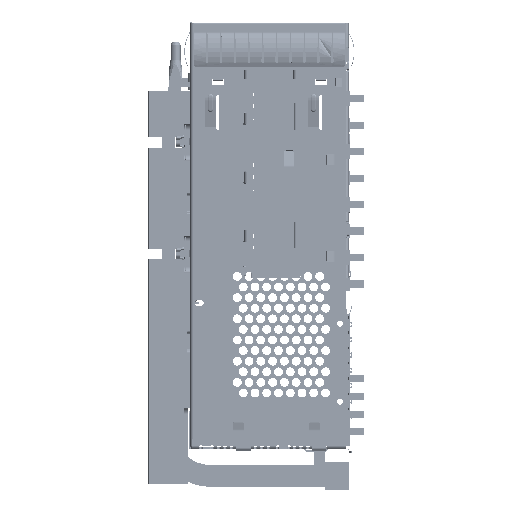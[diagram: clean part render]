
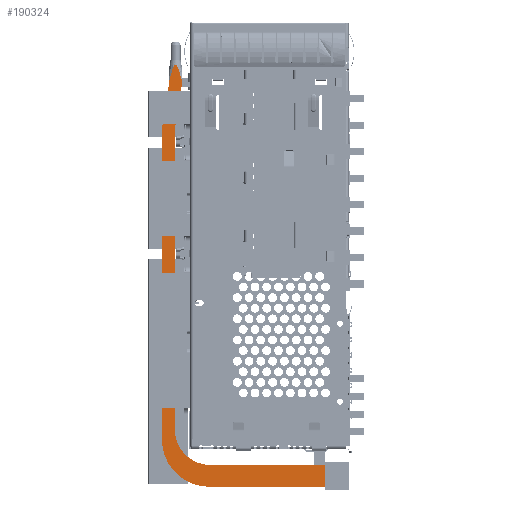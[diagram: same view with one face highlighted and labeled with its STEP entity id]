
A CAD part, left-side view. The second image highlights one B-rep face of the part: STEP entity #190324.
In plain terms, the highlighted planar face has unit normal (-1, 0, 0).
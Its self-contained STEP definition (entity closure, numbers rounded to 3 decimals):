
#51580=DIRECTION('',(0.,1.,0.));
#51581=VECTOR('',#51580,19.8);
#51582=CARTESIAN_POINT('',(-22.55,7.15,-78.962));
#51583=LINE('',#51582,#51581);
#51588=DIRECTION('',(0.,0.,1.));
#51589=VECTOR('',#51588,3.7);
#51590=CARTESIAN_POINT('',(-22.55,7.15,-78.962));
#51591=LINE('',#51590,#51589);
#51592=CARTESIAN_POINT('',(-22.55,26.95,-70.962));
#51593=DIRECTION('',(-1.,0.,0.));
#51594=DIRECTION('',(0.,1.,0.));
#51595=AXIS2_PLACEMENT_3D('',#51592,#51593,#51594);
#51597=DIRECTION('',(0.,0.,-1.));
#51598=VECTOR('',#51597,51.732);
#51599=CARTESIAN_POINT('',(-22.55,34.95,-19.23));
#51600=LINE('',#51599,#51598);
#51601=CARTESIAN_POINT('',(-22.55,16.75,-19.23));
#51602=DIRECTION('',(-1.,0.,0.));
#51603=DIRECTION('',(0.,0.985,0.174));
#51604=AXIS2_PLACEMENT_3D('',#51601,#51602,#51603);
#51606=DIRECTION('',(0.,0.174,-0.985));
#51607=VECTOR('',#51606,3.918);
#51608=CARTESIAN_POINT('',(-22.55,33.993,
-12.21));
#51609=LINE('',#51608,#51607);
#51610=CARTESIAN_POINT('',(-22.55,49.75,-9.432));
#51611=DIRECTION('',(1.,0.,0.));
#51612=DIRECTION('',(0.,-0.999,-0.042));
#51613=AXIS2_PLACEMENT_3D('',#51610,#51611,#51612);
#51615=CARTESIAN_POINT('',(-22.55,49.75,-9.432));
#51616=DIRECTION('',(-1.,0.,0.));
#51617=DIRECTION('',(0.,-0.985,-0.174));
#51618=AXIS2_PLACEMENT_3D('',#51615,#51616,#51617);
#51620=DIRECTION('',(0.,-0.174,0.985));
#51621=VECTOR('',#51620,3.918);
#51622=CARTESIAN_POINT('',(-22.55,32.507,
-16.451));
#51623=LINE('',#51622,#51621);
#51624=CARTESIAN_POINT('',(-22.55,16.75,-19.23));
#51625=DIRECTION('',(1.,0.,0.));
#51626=DIRECTION('',(0.,1.,0.));
#51627=AXIS2_PLACEMENT_3D('',#51624,#51625,#51626);
#51629=DIRECTION('',(0.,0.,1.));
#51630=VECTOR('',#51629,50.032);
#51631=CARTESIAN_POINT('',(-22.55,32.75,-69.262));
#51632=LINE('',#51631,#51630);
#51633=CARTESIAN_POINT('',(-22.55,26.75,-69.262));
#51634=DIRECTION('',(1.,0.,0.));
#51635=DIRECTION('',(0.,0.,-1.));
#51636=AXIS2_PLACEMENT_3D('',#51633,#51634,#51635);
#51807=CARTESIAN_POINT('',(-22.55,33.764,
-10.101));
#51808=CARTESIAN_POINT('',(-22.55,33.739,
-9.996));
#51809=CARTESIAN_POINT('',(-22.55,33.69,
-9.794));
#51810=CARTESIAN_POINT('',(-22.55,33.621,
-9.516));
#51811=CARTESIAN_POINT('',(-22.55,33.556,
-9.261));
#51812=CARTESIAN_POINT('',(-22.55,33.493,
-9.027));
#51813=CARTESIAN_POINT('',(-22.55,33.433,
-8.813));
#51814=CARTESIAN_POINT('',(-22.55,33.376,
-8.618));
#51815=CARTESIAN_POINT('',(-22.55,33.321,
-8.44));
#51816=CARTESIAN_POINT('',(-22.55,33.268,
-8.277));
#51817=CARTESIAN_POINT('',(-22.55,33.217,
-8.13));
#51818=CARTESIAN_POINT('',(-22.55,33.168,
-7.996));
#51819=CARTESIAN_POINT('',(-22.55,33.12,
-7.875));
#51820=CARTESIAN_POINT('',(-22.55,33.073,
-7.767));
#51821=CARTESIAN_POINT('',(-22.55,33.026,
-7.669));
#51822=CARTESIAN_POINT('',(-22.55,32.98,
-7.582));
#51823=CARTESIAN_POINT('',(-22.55,32.935,
-7.506));
#51824=CARTESIAN_POINT('',(-22.55,32.889,
-7.441));
#51825=CARTESIAN_POINT('',(-22.55,32.843,
-7.385));
#51826=CARTESIAN_POINT('',(-22.55,32.795,
-7.34));
#51827=CARTESIAN_POINT('',(-22.55,32.747,
-7.307));
#51828=CARTESIAN_POINT('',(-22.55,32.701,
-7.288));
#51829=CARTESIAN_POINT('',(-22.55,32.655,
-7.281));
#51830=CARTESIAN_POINT('',(-22.55,32.61,
-7.285));
#51831=CARTESIAN_POINT('',(-22.55,32.564,
-7.301));
#51832=CARTESIAN_POINT('',(-22.55,32.518,
-7.33));
#51833=CARTESIAN_POINT('',(-22.55,32.47,
-7.372));
#51834=CARTESIAN_POINT('',(-22.55,32.424,
-7.424));
#51835=CARTESIAN_POINT('',(-22.55,32.378,
-7.487));
#51836=CARTESIAN_POINT('',(-22.55,32.333,
-7.56));
#51837=CARTESIAN_POINT('',(-22.55,32.287,
-7.643));
#51838=CARTESIAN_POINT('',(-22.55,32.241,
-7.737));
#51839=CARTESIAN_POINT('',(-22.55,32.194,
-7.842));
#51840=CARTESIAN_POINT('',(-22.55,32.147,
-7.959));
#51841=CARTESIAN_POINT('',(-22.55,32.098,
-8.089));
#51842=CARTESIAN_POINT('',(-22.55,32.047,
-8.232));
#51843=CARTESIAN_POINT('',(-22.55,31.995,
-8.389));
#51844=CARTESIAN_POINT('',(-22.55,31.941,
-8.562));
#51845=CARTESIAN_POINT('',(-22.55,31.884,
-8.752));
#51846=CARTESIAN_POINT('',(-22.55,31.826,
-8.96));
#51847=CARTESIAN_POINT('',(-22.55,31.764,
-9.187));
#51848=CARTESIAN_POINT('',(-22.55,31.699,
-9.435));
#51849=CARTESIAN_POINT('',(-22.55,31.631,
-9.705));
#51850=CARTESIAN_POINT('',(-22.55,31.584,
-9.902));
#51851=CARTESIAN_POINT('',(-22.55,31.559,
-10.005));
#51948=DIRECTION('',(0.,-1.,0.));
#51949=VECTOR('',#51948,19.6);
#51950=CARTESIAN_POINT('',(-22.55,26.75,-75.262));
#51951=LINE('',#51950,#51949);
#121664=CARTESIAN_POINT('',(-22.55,26.75,-75.262));
#121665=CARTESIAN_POINT('',(-22.55,32.75,-69.262));
#121666=VERTEX_POINT('',#121664);
#121667=VERTEX_POINT('',#121665);
#121668=CARTESIAN_POINT('',(-22.55,32.75,-19.23));
#121669=VERTEX_POINT('',#121668);
#121670=CARTESIAN_POINT('',(-22.55,32.507,
-16.451));
#121671=VERTEX_POINT('',#121670);
#121672=CARTESIAN_POINT('',(-22.55,31.826,
-12.592));
#121673=VERTEX_POINT('',#121672);
#121674=CARTESIAN_POINT('',(-22.55,31.559,
-10.005));
#121675=VERTEX_POINT('',#121674);
#121676=CARTESIAN_POINT('',(-22.55,33.764,
-10.101));
#121677=CARTESIAN_POINT('',(-22.55,33.993,
-12.21));
#121678=VERTEX_POINT('',#121676);
#121679=VERTEX_POINT('',#121677);
#121680=CARTESIAN_POINT('',(-22.55,34.674,
-16.069));
#121681=VERTEX_POINT('',#121680);
#121682=CARTESIAN_POINT('',(-22.55,34.95,-19.23));
#121683=VERTEX_POINT('',#121682);
#121684=CARTESIAN_POINT('',(-22.55,34.95,-70.962));
#121685=VERTEX_POINT('',#121684);
#121686=CARTESIAN_POINT('',(-22.55,26.95,-78.962));
#121687=VERTEX_POINT('',#121686);
#123432=CARTESIAN_POINT('',(-22.55,7.15,-78.962));
#123433=CARTESIAN_POINT('',(-22.55,7.15,-75.262));
#123434=VERTEX_POINT('',#123432);
#123435=VERTEX_POINT('',#123433);
#190291=CARTESIAN_POINT('',(-22.55,4.45,-77.112));
#190292=DIRECTION('',(1.,0.,0.));
#190293=DIRECTION('',(0.,0.,1.));
#190294=AXIS2_PLACEMENT_3D('',#190291,#190292,#190293);
#190295=PLANE('',#190294);
#190296=ORIENTED_EDGE('',*,*,#190279,.F.);
#190297=ORIENTED_EDGE('',*,*,#190269,.T.);
#190299=ORIENTED_EDGE('',*,*,#190298,.F.);
#190301=ORIENTED_EDGE('',*,*,#190300,.F.);
#190303=ORIENTED_EDGE('',*,*,#190302,.F.);
#190305=ORIENTED_EDGE('',*,*,#190304,.F.);
#190307=ORIENTED_EDGE('',*,*,#190306,.F.);
#190309=ORIENTED_EDGE('',*,*,#190308,.T.);
#190311=ORIENTED_EDGE('',*,*,#190310,.F.);
#190313=ORIENTED_EDGE('',*,*,#190312,.F.);
#190315=ORIENTED_EDGE('',*,*,#190314,.F.);
#190317=ORIENTED_EDGE('',*,*,#190316,.F.);
#190319=ORIENTED_EDGE('',*,*,#190318,.F.);
#190321=ORIENTED_EDGE('',*,*,#190320,.T.);
#190322=EDGE_LOOP('',(#190296,#190297,#190299,#190301,#190303,#190305,#190307,
#190309,#190311,#190313,#190315,#190317,#190319,#190321));
#190323=FACE_OUTER_BOUND('',#190322,.F.);
#190324=ADVANCED_FACE('',(#190323),#190295,.F.);
#51596=CIRCLE('',#51595,8.);
#51605=CIRCLE('',#51604,18.2);
#51614=CIRCLE('',#51613,16.);
#51619=CIRCLE('',#51618,18.2);
#51628=CIRCLE('',#51627,16.);
#51637=CIRCLE('',#51636,6.);
#51852=B_SPLINE_CURVE_WITH_KNOTS('',3,(#51807,#51808,#51809,#51810,#51811,
#51812,#51813,#51814,#51815,#51816,#51817,#51818,#51819,#51820,#51821,#51822,
#51823,#51824,#51825,#51826,#51827,#51828,#51829,#51830,#51831,#51832,#51833,
#51834,#51835,#51836,#51837,#51838,#51839,#51840,#51841,#51842,#51843,#51844,
#51845,#51846,#51847,#51848,#51849,#51850,#51851),.UNSPECIFIED.,.F.,.F.,(4,1,1,
1,1,1,1,1,1,1,1,1,1,1,1,1,1,1,1,1,1,1,1,1,1,1,1,1,1,1,1,1,1,1,1,1,1,1,1,1,1,1,
4),(0.,0.024,0.048,0.071,
0.095,0.119,0.143,0.167,
0.19,0.214,0.238,0.262,
0.286,0.31,0.333,0.357,
0.381,0.405,0.429,0.452,
0.476,0.5,0.524,0.548,0.571,
0.595,0.619,0.643,0.667,
0.69,0.714,0.738,0.762,
0.786,0.81,0.833,0.857,
0.881,0.905,0.929,0.952,
0.976,1.),.UNSPECIFIED.);
#190269=EDGE_CURVE('',#123434,#121687,#51583,.T.);
#190279=EDGE_CURVE('',#123434,#123435,#51591,.T.);
#190298=EDGE_CURVE('',#121685,#121687,#51596,.T.);
#190300=EDGE_CURVE('',#121683,#121685,#51600,.T.);
#190302=EDGE_CURVE('',#121681,#121683,#51605,.T.);
#190304=EDGE_CURVE('',#121679,#121681,#51609,.T.);
#190306=EDGE_CURVE('',#121678,#121679,#51614,.T.);
#190308=EDGE_CURVE('',#121678,#121675,#51852,.T.);
#190310=EDGE_CURVE('',#121673,#121675,#51619,.T.);
#190312=EDGE_CURVE('',#121671,#121673,#51623,.T.);
#190314=EDGE_CURVE('',#121669,#121671,#51628,.T.);
#190316=EDGE_CURVE('',#121667,#121669,#51632,.T.);
#190318=EDGE_CURVE('',#121666,#121667,#51637,.T.);
#190320=EDGE_CURVE('',#121666,#123435,#51951,.T.);
